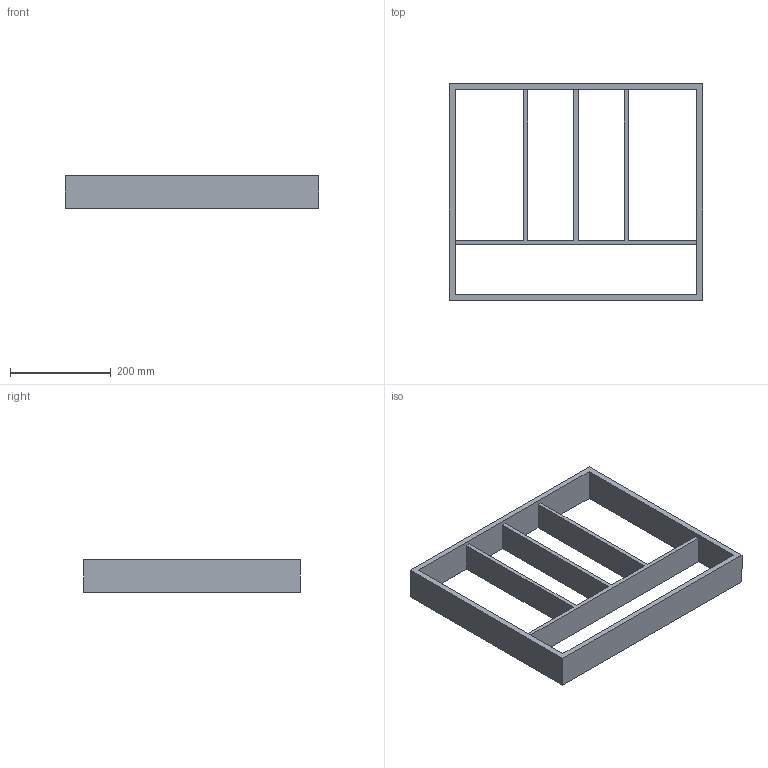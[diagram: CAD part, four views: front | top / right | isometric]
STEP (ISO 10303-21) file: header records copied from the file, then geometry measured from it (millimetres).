
FILE_DESCRIPTION (( 'STEP AP214' ), '1' );
FILE_NAME ('Vario Multi NL450_B600_19 mm_Buche.step', '2010-10-07T06:24:18', ( 'grass' ), ( '' ), 'SwSTEP 2.0', 'SolidWorks 2010', '' );
FILE_SCHEMA (( 'AUTOMOTIVE_DESIGN' ));
Length unit declared in the file: millimetre
Products named in the file (1): Vario Multi NL450_B600_19 mm_Buche
Bounding box: 502 x 429 x 65 mm (x, y, z)
Volume: 2041646.4 mm3; surface area: 454380 mm2
Topology: 1 solids, 1 shells, 22 faces, 72 edges, 48 vertices
Faces by surface type: plane 22
Entity records: 830 total; most frequent: ORIENTED_EDGE 144, CARTESIAN_POINT 143, DIRECTION 118, EDGE_CURVE 72, VECTOR 72, LINE 72, VERTEX_POINT 48, EDGE_LOOP 28
